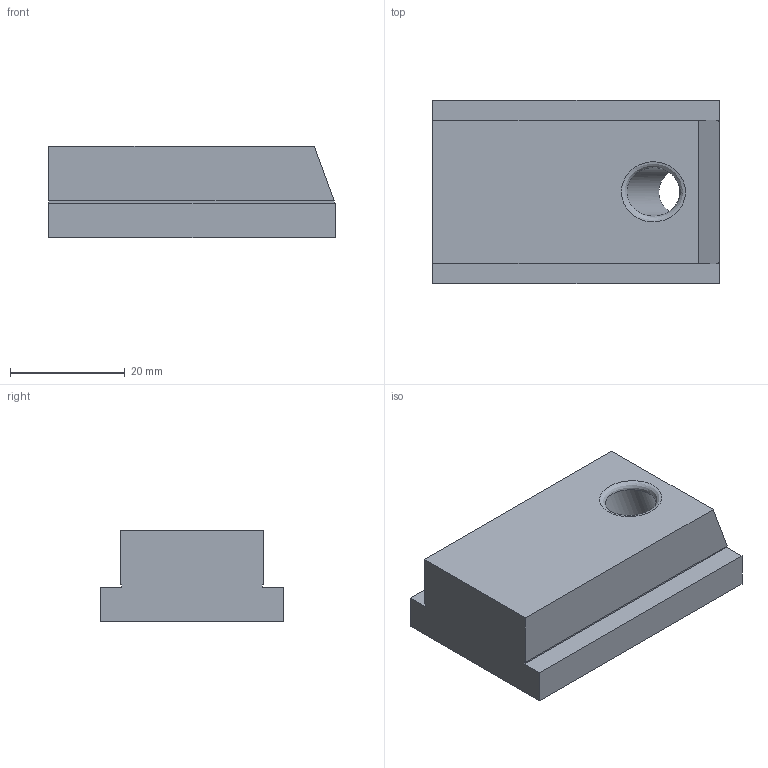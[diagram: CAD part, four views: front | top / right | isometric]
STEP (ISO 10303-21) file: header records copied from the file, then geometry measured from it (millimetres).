
FILE_DESCRIPTION (( 'STEP AP214' ), '1' );
FILE_NAME ('Schieber_-_H16 B25 L50.step', '2024-01-15T11:27:03', ( '' ), ( '' ), 'SwSTEP 2.0', 'SolidWorks 2020', '' );
FILE_SCHEMA (( 'AUTOMOTIVE_DESIGN' ));
Length unit declared in the file: millimetre
Products named in the file (1): Schieber_-_H16 B25 L50
Bounding box: 50 x 32 x 16 mm (x, y, z)
Volume: 20656.8 mm3; surface area: 5953.1 mm2
Topology: 1 solids, 1 shells, 206 faces, 552 edges, 367 vertices
Faces by surface type: plane 111, bspline 94, cylinder 1
Full cylindrical faces by diameter (mm): 8.5 x1
Entity records: 11260 total; most frequent: CARTESIAN_POINT 6728, ORIENTED_EDGE 1100, DIRECTION 587, EDGE_CURVE 550, VERTEX_POINT 367, LINE 361, VECTOR 361, EDGE_LOOP 229
